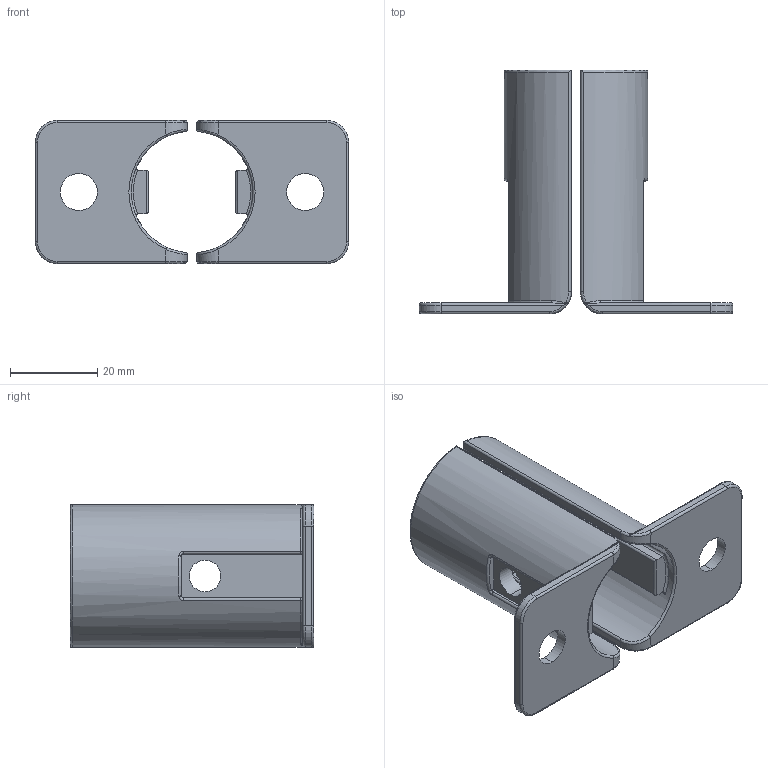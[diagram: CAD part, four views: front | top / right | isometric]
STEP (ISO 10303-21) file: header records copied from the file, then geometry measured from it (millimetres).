
FILE_DESCRIPTION (( 'STEP AP214' ), '1' );
FILE_NAME ('28-D16 3D file.STEP', '2019-07-21T14:21:44', ( '' ), ( '' ), 'SwSTEP 2.0', 'SolidWorks 2018', '' );
FILE_SCHEMA (( 'AUTOMOTIVE_DESIGN' ));
Length unit declared in the file: millimetre
Products named in the file (2): 28-D16 3D file; 28-D16
Assembly tree (2 placements, depth 2):
  28-D16 3D file
    28-D16  x2
Bounding box: 72 x 56 x 32.92 mm (x, y, z)
Volume: 16783.6 mm3; surface area: 14622.9 mm2
Topology: 2 solids, 2 shells, 174 faces, 428 edges, 256 vertices
Faces by surface type: cylinder 68, bspline 40, torus 34, plane 32
Entity records: 3366 total; most frequent: CARTESIAN_POINT 1359, ORIENTED_EDGE 424, DIRECTION 402, EDGE_CURVE 212, AXIS2_PLACEMENT_3D 167, VERTEX_POINT 128, CIRCLE 95, EDGE_LOOP 92
